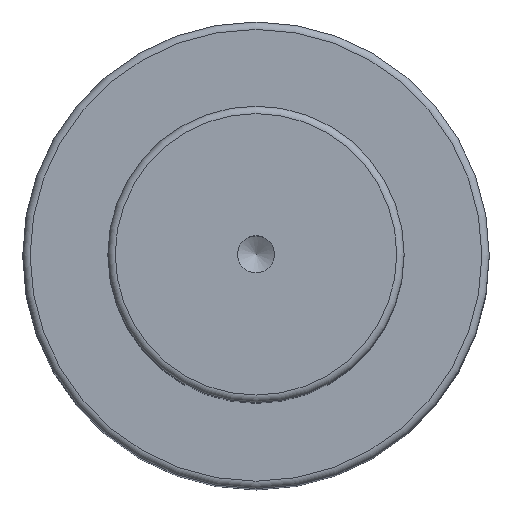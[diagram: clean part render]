
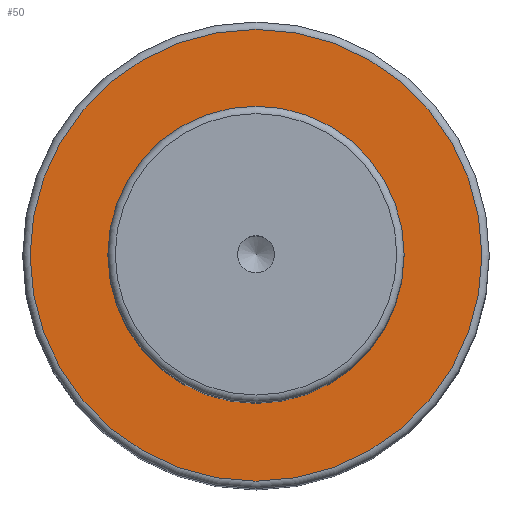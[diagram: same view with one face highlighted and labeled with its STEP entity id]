
A CAD part, top view. The second image highlights one B-rep face of the part: STEP entity #50.
In plain terms, the highlighted planar face has unit normal (0, 0, 1).
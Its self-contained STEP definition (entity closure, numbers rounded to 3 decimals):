
#40=PLANE('',#179);
#50=ADVANCED_FACE('',(#72,#73),#40,.F.);
#72=FACE_BOUND('',#96,.T.);
#73=FACE_BOUND('',#97,.T.);
#96=EDGE_LOOP('',(#118));
#97=EDGE_LOOP('',(#119));
#118=ORIENTED_EDGE('',*,*,#149,.F.);
#119=ORIENTED_EDGE('',*,*,#148,.T.);
#135=VERTEX_POINT('',#256);
#136=VERTEX_POINT('',#259);
#148=EDGE_CURVE('',#135,#135,#159,.T.);
#149=EDGE_CURVE('',#136,#136,#160,.T.);
#159=CIRCLE('',#176,20.);
#160=CIRCLE('',#178,30.5);
#176=AXIS2_PLACEMENT_3D('',#255,#213,#214);
#178=AXIS2_PLACEMENT_3D('',#258,#217,#218);
#179=AXIS2_PLACEMENT_3D('',#260,#219,#220);
#213=DIRECTION('',(0.,0.,-1.));
#214=DIRECTION('',(-1.,0.,0.));
#217=DIRECTION('',(0.,0.,-1.));
#218=DIRECTION('',(-1.,0.,0.));
#219=DIRECTION('',(0.,0.,-1.));
#220=DIRECTION('',(-1.,0.,0.));
#255=CARTESIAN_POINT('',(0.,0.,109.));
#256=CARTESIAN_POINT('',(-20.,0.,109.));
#258=CARTESIAN_POINT('',(0.,0.,109.));
#259=CARTESIAN_POINT('',(-30.5,0.,109.));
#260=CARTESIAN_POINT('',(20.,0.,109.));
